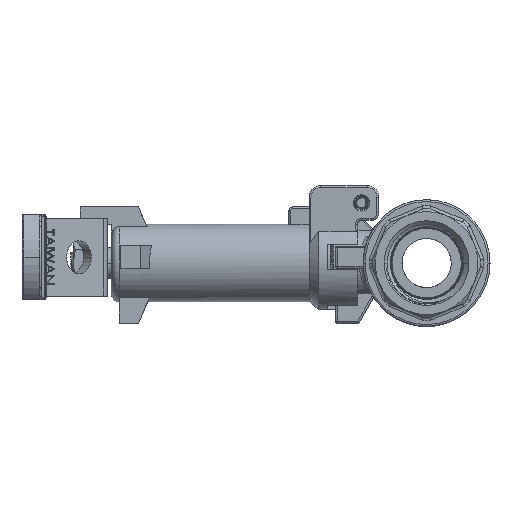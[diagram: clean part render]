
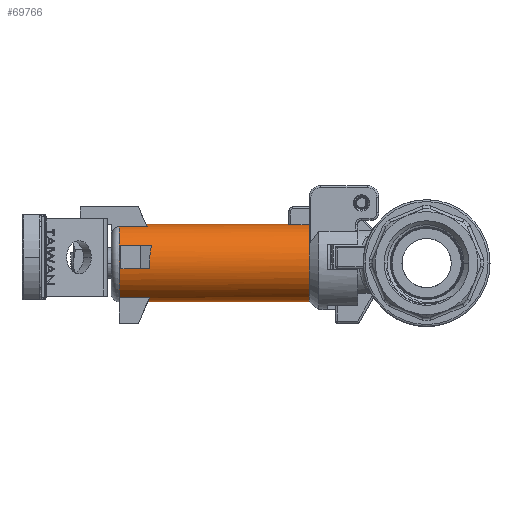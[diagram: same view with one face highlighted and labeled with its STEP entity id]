
A CAD part, left-side view. The second image highlights one B-rep face of the part: STEP entity #69766.
In plain terms, the highlighted cylindrical face has radius 10 mm (diameter 20 mm), a partial arc.
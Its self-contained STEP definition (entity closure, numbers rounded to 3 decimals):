
#381 = ORIENTED_EDGE ( 'NONE', *, *, #8325, .T. ) ;
#2686 = CIRCLE ( 'NONE', #85540, 10. ) ;
#5567 = CARTESIAN_POINT ( 'NONE',  ( -3.5, 47.268, 9.367 ) ) ;
#7116 = CARTESIAN_POINT ( 'NONE',  ( -3.5, 45.492, 9.367 ) ) ;
#7466 = CARTESIAN_POINT ( 'NONE',  ( 0., 47.109, -10. ) ) ;
#7807 = CARTESIAN_POINT ( 'NONE',  ( 0., 54.5, 0. ) ) ;
#7812 = DIRECTION ( 'NONE',  ( 0., 1., 0. ) ) ;
#8325 = EDGE_CURVE ( 'NONE', #105568, #134580, #45018, .T. ) ;
#9718 = CARTESIAN_POINT ( 'NONE',  ( -8.93, 54., 4.5 ) ) ;
#10681 = EDGE_CURVE ( 'NONE', #18092, #68047, #104344, .T. ) ;
#11507 = EDGE_CURVE ( 'NONE', #166394, #107250, #166063, .T. ) ;
#12667 = VERTEX_POINT ( 'NONE', #49415 ) ;
#13246 = VECTOR ( 'NONE', #117872, 1000. ) ;
#16544 = EDGE_CURVE ( 'NONE', #107250, #12667, #107529, .T. ) ;
#17100 = EDGE_CURVE ( 'NONE', #118370, #28596, #82882, .T. ) ;
#18092 = VERTEX_POINT ( 'NONE', #9718 ) ;
#19922 = CARTESIAN_POINT ( 'NONE',  ( -8.93, 46.143, 4.5 ) ) ;
#20391 = LINE ( 'NONE', #78085, #155777 ) ;
#20993 = DIRECTION ( 'NONE',  ( 0., 0., -1. ) ) ;
#22959 = DIRECTION ( 'NONE',  ( 0., 1., 0. ) ) ;
#24151 = CARTESIAN_POINT ( 'NONE',  ( 0., 5.5, 0. ) ) ;
#25525 = EDGE_CURVE ( 'NONE', #94932, #104761, #27842, .T. ) ;
#27604 = CARTESIAN_POINT ( 'NONE',  ( -4.5, 54.5, -8.93 ) ) ;
#27842 = LINE ( 'NONE', #153508, #128340 ) ;
#28596 = VERTEX_POINT ( 'NONE', #137029 ) ;
#29404 = ORIENTED_EDGE ( 'NONE', *, *, #10681, .T. ) ;
#30447 = VERTEX_POINT ( 'NONE', #93973 ) ;
#37277 = DIRECTION ( 'NONE',  ( 0., 0., 1. ) ) ;
#38418 = CARTESIAN_POINT ( 'NONE',  ( -10.201, 46.696, 0.567 ) ) ;
#40825 = ORIENTED_EDGE ( 'NONE', *, *, #11507, .T. ) ;
#45018 = LINE ( 'NONE', #7116, #114729 ) ;
#45465 = DIRECTION ( 'NONE',  ( 0., -1., 0. ) ) ;
#46091 = AXIS2_PLACEMENT_3D ( 'NONE', #48016, #139884, #61120 ) ;
#46464 = DIRECTION ( 'NONE',  ( 0., 1., 0. ) ) ;
#48016 = CARTESIAN_POINT ( 'NONE',  ( 0., 5.5, 0. ) ) ;
#48303 = EDGE_CURVE ( 'NONE', #28596, #104761, #63025, .T. ) ;
#49415 = CARTESIAN_POINT ( 'NONE',  ( 0., 5.5, 10. ) ) ;
#61120 = DIRECTION ( 'NONE',  ( 0., 0., 1. ) ) ;
#61765 = VERTEX_POINT ( 'NONE', #165942 ) ;
#63025 =( BOUNDED_CURVE ( )  B_SPLINE_CURVE ( 3, ( #72624, #138147, #85829, #7466 ),
 .UNSPECIFIED., .F., .F. ) 
 B_SPLINE_CURVE_WITH_KNOTS ( ( 4, 4 ),
 ( 5.816, 6.283 ),
 .UNSPECIFIED. ) 
 CURVE ( )  GEOMETRIC_REPRESENTATION_ITEM ( )  RATIONAL_B_SPLINE_CURVE ( ( 1., 0.982, 0.982, 1. ) ) 
 REPRESENTATION_ITEM ( '' )  );
#65783 = CIRCLE ( 'NONE', #46091, 10. ) ;
#65979 = DIRECTION ( 'NONE',  ( 0., 1., 0. ) ) ;
#68047 = VERTEX_POINT ( 'NONE', #19922 ) ;
#68694 = EDGE_LOOP ( 'NONE', ( #88682, #165916, #134515, #29404 ) ) ;
#69766 = ADVANCED_FACE ( 'NONE', ( #89084, #123993 ), #150828, .T. ) ;
#70735 = CARTESIAN_POINT ( 'NONE',  ( 0., 47.543, 10. ) ) ;
#72624 = CARTESIAN_POINT ( 'NONE',  ( -4.5, 46.643, -8.93 ) ) ;
#76603 = ORIENTED_EDGE ( 'NONE', *, *, #17100, .T. ) ;
#78085 = CARTESIAN_POINT ( 'NONE',  ( 0., 45.492, 10. ) ) ;
#79143 = CARTESIAN_POINT ( 'NONE',  ( 0., 5.5, -10. ) ) ;
#81578 = DIRECTION ( 'NONE',  ( 0., 0., 1. ) ) ;
#81935 =( BOUNDED_CURVE ( )  B_SPLINE_CURVE ( 3, ( #103728, #116900, #38418, #130198 ),
 .UNSPECIFIED., .F., .F. ) 
 B_SPLINE_CURVE_WITH_KNOTS ( ( 4, 4 ),
 ( 5.816, 6.434 ),
 .UNSPECIFIED. ) 
 CURVE ( )  GEOMETRIC_REPRESENTATION_ITEM ( )  RATIONAL_B_SPLINE_CURVE ( ( 1., 0.968, 0.968, 1. ) ) 
 REPRESENTATION_ITEM ( '' )  );
#82872 = ORIENTED_EDGE ( 'NONE', *, *, #164102, .T. ) ;
#82882 = LINE ( 'NONE', #157132, #13246 ) ;
#83194 = EDGE_CURVE ( 'NONE', #61765, #18092, #2686, .T. ) ;
#83927 = CARTESIAN_POINT ( 'NONE',  ( -2.377, 47.451, 9.787 ) ) ;
#84996 = EDGE_CURVE ( 'NONE', #94932, #166394, #65783, .T. ) ;
#85540 = AXIS2_PLACEMENT_3D ( 'NONE', #101361, #22959, #114497 ) ;
#85829 = CARTESIAN_POINT ( 'NONE',  ( -1.57, 47.109, -10. ) ) ;
#86210 = CARTESIAN_POINT ( 'NONE',  ( 0., 5.5, 0. ) ) ;
#87045 = EDGE_CURVE ( 'NONE', #100562, #61765, #100471, .T. ) ;
#88682 = ORIENTED_EDGE ( 'NONE', *, *, #97281, .T. ) ;
#89084 = FACE_OUTER_BOUND ( 'NONE', #148427, .T. ) ;
#92796 = ORIENTED_EDGE ( 'NONE', *, *, #16544, .T. ) ;
#93401 = CIRCLE ( 'NONE', #152599, 10. ) ;
#93973 = CARTESIAN_POINT ( 'NONE',  ( 0., 47.543, 10. ) ) ;
#94932 = VERTEX_POINT ( 'NONE', #79143 ) ;
#97281 = EDGE_CURVE ( 'NONE', #68047, #100562, #81935, .T. ) ;
#99105 = EDGE_CURVE ( 'NONE', #30447, #105568, #117594, .T. ) ;
#99413 = DIRECTION ( 'NONE',  ( 0., -1., 0. ) ) ;
#99416 = DIRECTION ( 'NONE',  ( 0., 0., 1. ) ) ;
#100471 = LINE ( 'NONE', #128820, #166373 ) ;
#100562 = VERTEX_POINT ( 'NONE', #152509 ) ;
#101361 = CARTESIAN_POINT ( 'NONE',  ( 0., 54., 0. ) ) ;
#101488 = AXIS2_PLACEMENT_3D ( 'NONE', #24151, #115717, #37277 ) ;
#103040 = AXIS2_PLACEMENT_3D ( 'NONE', #86210, #7812, #99416 ) ;
#103728 = CARTESIAN_POINT ( 'NONE',  ( -8.93, 46.143, 4.5 ) ) ;
#104344 = LINE ( 'NONE', #137322, #139476 ) ;
#104761 = VERTEX_POINT ( 'NONE', #169688 ) ;
#105568 = VERTEX_POINT ( 'NONE', #136098 ) ;
#107250 = VERTEX_POINT ( 'NONE', #130617 ) ;
#107529 = CIRCLE ( 'NONE', #103040, 10. ) ;
#114497 = DIRECTION ( 'NONE',  ( 0., 0., -1. ) ) ;
#114729 = VECTOR ( 'NONE', #46464, 1000. ) ;
#115717 = DIRECTION ( 'NONE',  ( 0., 1., 0. ) ) ;
#116900 = CARTESIAN_POINT ( 'NONE',  ( -9.871, 46.553, 2.633 ) ) ;
#117594 =( BOUNDED_CURVE ( )  B_SPLINE_CURVE ( 3, ( #70735, #149474, #83927, #5567 ),
 .UNSPECIFIED., .F., .T. ) 
 B_SPLINE_CURVE_WITH_KNOTS ( ( 4, 4 ),
 ( 0., 0.358 ),
 .UNSPECIFIED. ) 
 CURVE ( )  GEOMETRIC_REPRESENTATION_ITEM ( )  RATIONAL_B_SPLINE_CURVE ( ( 1., 0.989, 0.989, 1. ) ) 
 REPRESENTATION_ITEM ( '' )  );
#117872 = DIRECTION ( 'NONE',  ( 0., -1., 0. ) ) ;
#118370 = VERTEX_POINT ( 'NONE', #27604 ) ;
#123993 = FACE_BOUND ( 'NONE', #68694, .T. ) ;
#127942 = CARTESIAN_POINT ( 'NONE',  ( -3.5, 54.5, 9.367 ) ) ;
#128340 = VECTOR ( 'NONE', #140280, 1000. ) ;
#128820 = CARTESIAN_POINT ( 'NONE',  ( -9.887, 45.492, -1.5 ) ) ;
#130198 = CARTESIAN_POINT ( 'NONE',  ( -9.887, 46.559, -1.5 ) ) ;
#130617 = CARTESIAN_POINT ( 'NONE',  ( -3.122, 5.5, 9.5 ) ) ;
#133953 = ORIENTED_EDGE ( 'NONE', *, *, #48303, .T. ) ;
#134515 = ORIENTED_EDGE ( 'NONE', *, *, #83194, .T. ) ;
#134580 = VERTEX_POINT ( 'NONE', #127942 ) ;
#136098 = CARTESIAN_POINT ( 'NONE',  ( -3.5, 47.268, 9.367 ) ) ;
#137029 = CARTESIAN_POINT ( 'NONE',  ( -4.5, 46.643, -8.93 ) ) ;
#137322 = CARTESIAN_POINT ( 'NONE',  ( -8.93, 45.492, 4.5 ) ) ;
#137401 = AXIS2_PLACEMENT_3D ( 'NONE', #160370, #146577, #81578 ) ;
#138147 = CARTESIAN_POINT ( 'NONE',  ( -3.098, 46.951, -9.637 ) ) ;
#139476 = VECTOR ( 'NONE', #45465, 1000. ) ;
#139884 = DIRECTION ( 'NONE',  ( 0., 1., 0. ) ) ;
#140280 = DIRECTION ( 'NONE',  ( 0., 1., 0. ) ) ;
#142109 = DIRECTION ( 'NONE',  ( 0., 1., 0. ) ) ;
#146577 = DIRECTION ( 'NONE',  ( 0., 1., 0. ) ) ;
#148427 = EDGE_LOOP ( 'NONE', ( #169166, #151780, #40825, #92796, #82872, #158017, #381, #154283, #76603, #133953 ) ) ;
#149474 = CARTESIAN_POINT ( 'NONE',  ( -1.198, 47.543, 10. ) ) ;
#150828 = CYLINDRICAL_SURFACE ( 'NONE', #137401, 10. ) ;
#151780 = ORIENTED_EDGE ( 'NONE', *, *, #84996, .T. ) ;
#152241 = EDGE_CURVE ( 'NONE', #134580, #118370, #93401, .T. ) ;
#152509 = CARTESIAN_POINT ( 'NONE',  ( -9.887, 46.559, -1.5 ) ) ;
#152599 = AXIS2_PLACEMENT_3D ( 'NONE', #7807, #99413, #20993 ) ;
#153508 = CARTESIAN_POINT ( 'NONE',  ( 0., 45.492, -10. ) ) ;
#154283 = ORIENTED_EDGE ( 'NONE', *, *, #152241, .T. ) ;
#155777 = VECTOR ( 'NONE', #65979, 1000. ) ;
#157132 = CARTESIAN_POINT ( 'NONE',  ( -4.5, 45.492, -8.93 ) ) ;
#158017 = ORIENTED_EDGE ( 'NONE', *, *, #99105, .T. ) ;
#160370 = CARTESIAN_POINT ( 'NONE',  ( 0., 45.492, 0. ) ) ;
#164102 = EDGE_CURVE ( 'NONE', #12667, #30447, #20391, .T. ) ;
#165916 = ORIENTED_EDGE ( 'NONE', *, *, #87045, .T. ) ;
#165942 = CARTESIAN_POINT ( 'NONE',  ( -9.887, 54., -1.5 ) ) ;
#166063 = CIRCLE ( 'NONE', #101488, 10. ) ;
#166373 = VECTOR ( 'NONE', #142109, 1000. ) ;
#166394 = VERTEX_POINT ( 'NONE', #166545 ) ;
#166545 = CARTESIAN_POINT ( 'NONE',  ( -8.25, 5.5, 5.651 ) ) ;
#169166 = ORIENTED_EDGE ( 'NONE', *, *, #25525, .F. ) ;
#169688 = CARTESIAN_POINT ( 'NONE',  ( 0., 47.109, -10. ) ) ;
